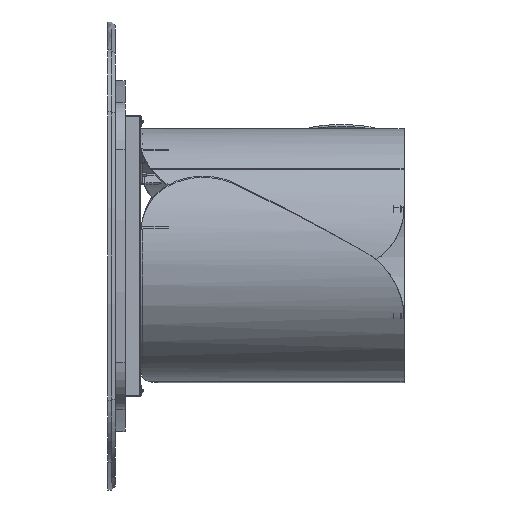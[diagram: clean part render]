
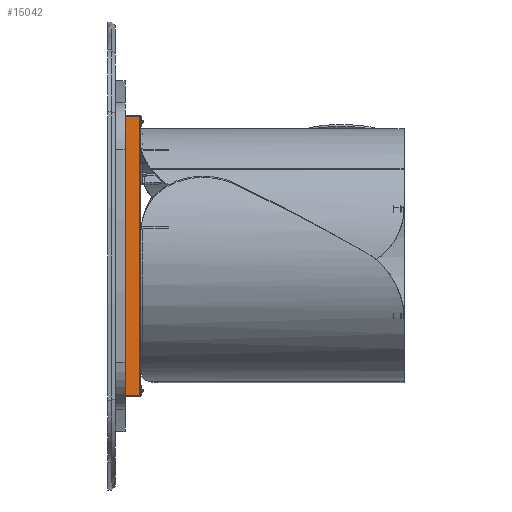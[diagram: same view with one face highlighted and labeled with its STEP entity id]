
A CAD part, left-side view. The second image highlights one B-rep face of the part: STEP entity #15042.
In plain terms, the highlighted planar face has unit normal (-1, 0, 0).
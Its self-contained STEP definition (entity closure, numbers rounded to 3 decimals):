
#172 = ORIENTED_EDGE ( 'NONE', *, *, #19862, .T. ) ;
#846 = EDGE_CURVE ( 'NONE', #23858, #15586, #10295, .T. ) ;
#1918 = LINE ( 'NONE', #11300, #12173 ) ;
#2156 = ORIENTED_EDGE ( 'NONE', *, *, #10689, .T. ) ;
#5054 = LINE ( 'NONE', #12897, #5328 ) ;
#5309 = DIRECTION ( 'NONE',  ( 0., 1., 0. ) ) ;
#5328 = VECTOR ( 'NONE', #5309, 1000. ) ;
#6139 = ORIENTED_EDGE ( 'NONE', *, *, #846, .T. ) ;
#8233 = CARTESIAN_POINT ( 'NONE',  ( -805., 2., -358. ) ) ;
#8602 = DIRECTION ( 'NONE',  ( 1., 0., 0. ) ) ;
#9470 = LINE ( 'NONE', #17037, #24318 ) ;
#10295 = LINE ( 'NONE', #18116, #17873 ) ;
#10685 = DIRECTION ( 'NONE',  ( 0., 0., -1. ) ) ;
#10689 = EDGE_CURVE ( 'NONE', #24553, #23858, #5054, .T. ) ;
#11023 = VERTEX_POINT ( 'NONE', #8233 ) ;
#11300 = CARTESIAN_POINT ( 'NONE',  ( -805., 2., 360. ) ) ;
#12173 = VECTOR ( 'NONE', #21066, 1000. ) ;
#12847 = DIRECTION ( 'NONE',  ( 0., 0., -1. ) ) ;
#12897 = CARTESIAN_POINT ( 'NONE',  ( -805., 40., 358. ) ) ;
#12974 = PLANE ( 'NONE',  #16557 ) ;
#13441 = CARTESIAN_POINT ( 'NONE',  ( -805., 2., 358. ) ) ;
#14461 = EDGE_LOOP ( 'NONE', ( #6139, #18672, #172, #2156 ) ) ;
#15042 = ADVANCED_FACE ( 'NONE', ( #16560 ), #12974, .F. ) ;
#15586 = VERTEX_POINT ( 'NONE', #24633 ) ;
#15644 = EDGE_CURVE ( 'NONE', #15586, #11023, #9470, .T. ) ;
#16557 = AXIS2_PLACEMENT_3D ( 'NONE', #20428, #8602, #12847 ) ;
#16560 = FACE_OUTER_BOUND ( 'NONE', #14461, .T. ) ;
#17037 = CARTESIAN_POINT ( 'NONE',  ( -805., 40., -358. ) ) ;
#17873 = VECTOR ( 'NONE', #10685, 1000. ) ;
#18116 = CARTESIAN_POINT ( 'NONE',  ( -805., 38., -360. ) ) ;
#18672 = ORIENTED_EDGE ( 'NONE', *, *, #15644, .T. ) ;
#19862 = EDGE_CURVE ( 'NONE', #11023, #24553, #1918, .T. ) ;
#20428 = CARTESIAN_POINT ( 'NONE',  ( -805., 40., 360. ) ) ;
#20776 = DIRECTION ( 'NONE',  ( 0., -1., 0. ) ) ;
#21066 = DIRECTION ( 'NONE',  ( 0., 0., 1. ) ) ;
#23858 = VERTEX_POINT ( 'NONE', #24653 ) ;
#24318 = VECTOR ( 'NONE', #20776, 1000. ) ;
#24553 = VERTEX_POINT ( 'NONE', #13441 ) ;
#24633 = CARTESIAN_POINT ( 'NONE',  ( -805., 38., -358. ) ) ;
#24653 = CARTESIAN_POINT ( 'NONE',  ( -805., 38., 358. ) ) ;
